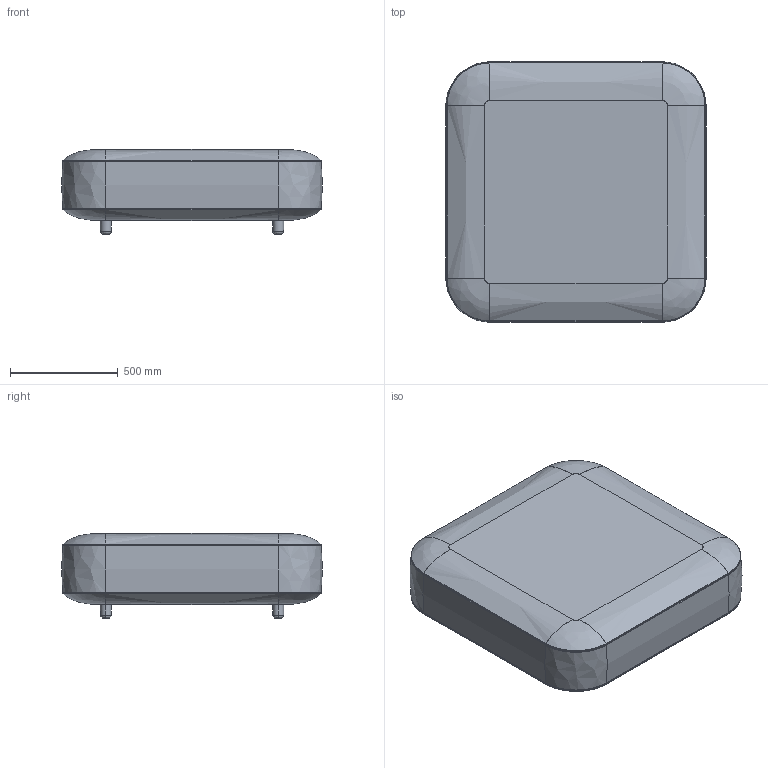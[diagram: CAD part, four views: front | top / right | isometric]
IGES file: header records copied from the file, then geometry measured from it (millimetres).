
Start section: SolidWorks IGES file using analytic representation for surfaces
Global section: file name: C:\Users\Usuario\Dropbox\Viccarbe\ARCHIVOS ENVIAR\3D\Common\4-120x120\IGES\6_modulo cuadrado.IGS; native system: SolidWorks 2013; preprocessor: SolidWorks 2013; author: Usuario; date: 130410.103731; units: millimetre
Bounding box: 1210 x 1210 x 395 mm (x, y, z)
Surface area: 9589059.3 mm2 (no closed solid volume)
Topology: 0 solids, 0 shells, 118 faces, 1262 edges, 1262 vertices
Faces by surface type: bspline 90, revolution 28
